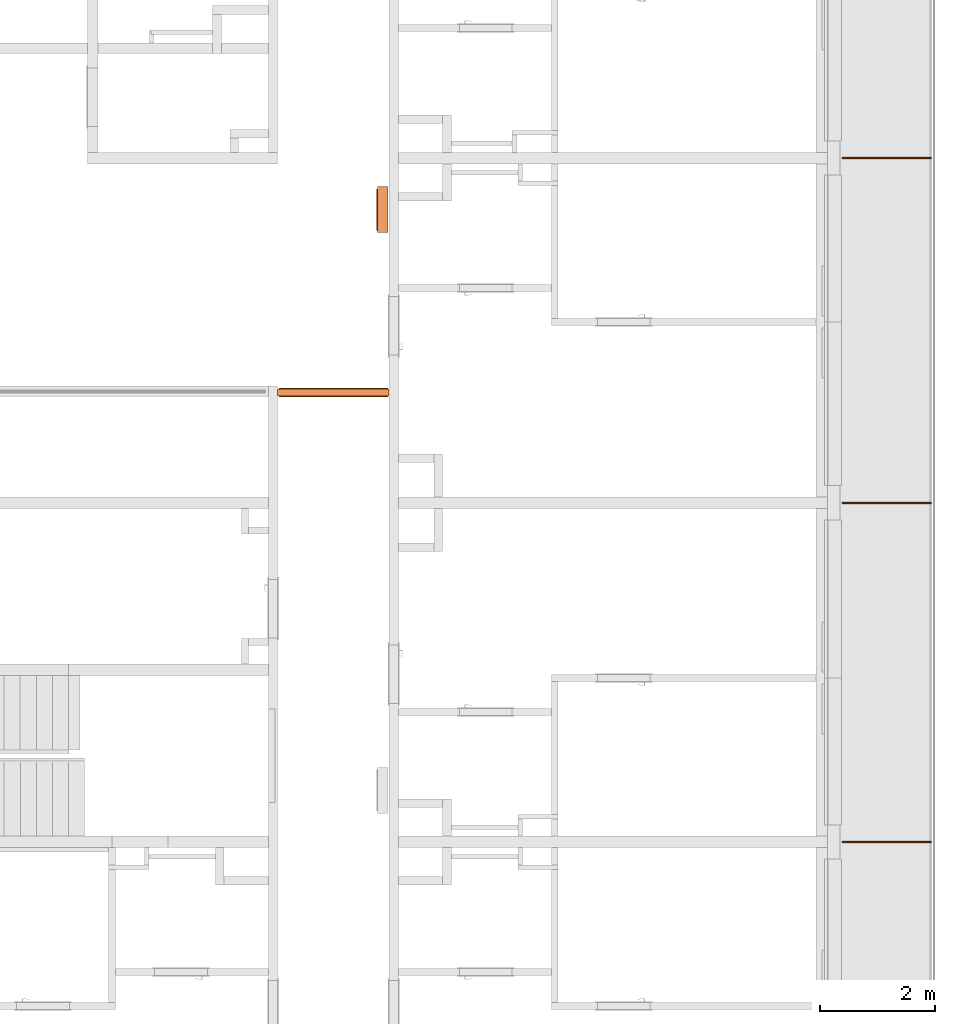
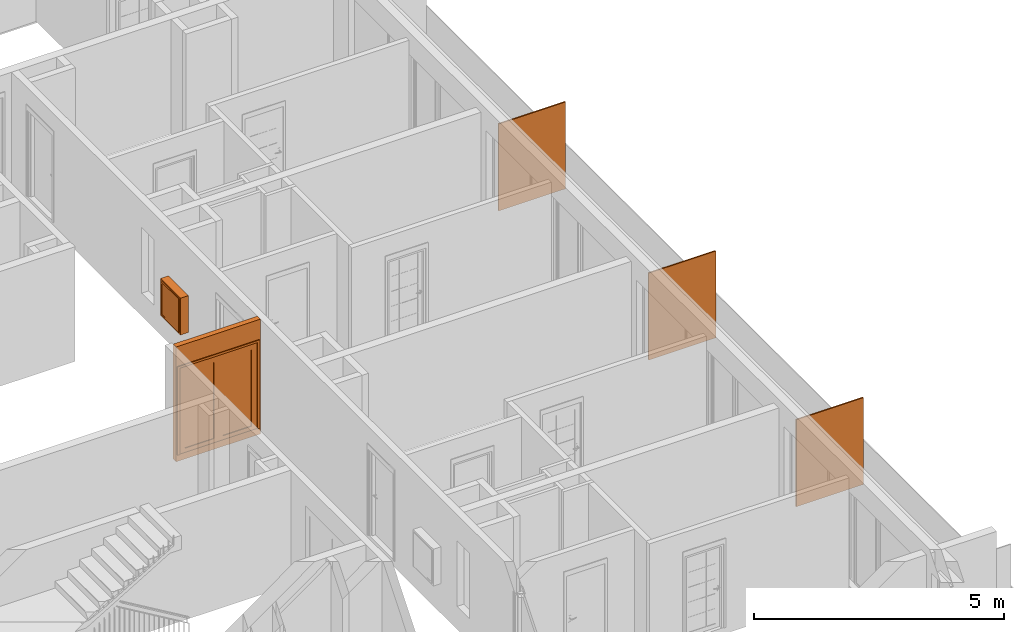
# One storey, part 32 of 66: 6 proxies, 1 opening.
"""IFC2X3 building model written with IfcOpenShell, lengths in millimetres."""

import ifcopenshell
import ifcopenshell.guid

model = None  # the IFC model being written
_history = None  # IfcOwnerHistory: only IFC2X3 demands one
_inside = {}  # id of a spatial element -> (the spatial element, [elements in it])
_under = {}  # id of a project, library or spatial element -> (it, [spatial elements below it])
_declared = {}  # id of a project -> (the project, [libraries it declares])
_typed = {}  # id of a type object -> (the type object, [elements of that type])
_made_of = {}  # id of a material, layer set ... -> (it, [elements and type objects made of it])


def new_model(schema):
    """Start an empty IFC model of exactly this schema.

    Asked for "IFC4X3", IfcOpenShell would pick the latest addendum, in which some entities
    have other attributes; the version numbers below select the first issue.
    IFC2X3 requires an IfcOwnerHistory on every rooted entity: one is made here for all.
    """
    global model, _history
    if schema == "IFC4X3":
        model = ifcopenshell.file(schema_version=(4, 3, 0, 0))
    else:
        model = ifcopenshell.file(schema=schema)
    _inside.clear()
    _under.clear()
    _declared.clear()
    _typed.clear()
    _made_of.clear()
    _history = None
    if model.schema == "IFC2X3":
        org = make("IfcOrganization", Name="unknown")
        user = make(
            "IfcPersonAndOrganization",
            ThePerson=make("IfcPerson", FamilyName="unknown"),
            TheOrganization=org,
        )
        app = make(
            "IfcApplication",
            ApplicationDeveloper=org,
            Version="unknown",
            ApplicationFullName="unknown",
            ApplicationIdentifier="unknown",
        )
        _history = make(
            "IfcOwnerHistory",
            OwningUser=user,
            OwningApplication=app,
            ChangeAction="ADDED",
            CreationDate=0,
        )
    return model


def make(cls, **values):
    """One entity of the class cls with the attributes given. An attribute that is None is left unset."""
    return model.create_entity(
        cls, **{name: value for name, value in values.items() if value is not None}
    )


def entity(cls, *values):
    """Any entity or typed value of the class cls, its attributes in the order of the schema. None: left unset."""
    e = model.create_entity(cls)
    for i, value in enumerate(values):
        if value is not None:
            e[i] = value
    return e


def rooted(cls, **values):
    """An entity with a GlobalId (a new one), such as an element, a storey or a relation."""
    return make(cls, GlobalId=ifcopenshell.guid.new(), OwnerHistory=_history, **values)


def si_unit(unit_type, name, prefix=None):
    """IfcSIUnit, for example si_unit("LENGTHUNIT", "METRE", prefix="MILLI")."""
    return make("IfcSIUnit", UnitType=unit_type, Prefix=prefix, Name=name)


def converted_unit(unit_type, name, factor, base, dimensions=None, offset=None):
    """IfcConversionBasedUnit, such as the inch: factor (a typed value) times the base unit."""
    return make(
        "IfcConversionBasedUnit"
        if offset is None
        else "IfcConversionBasedUnitWithOffset",
        ConversionOffset=offset,
        Dimensions=None
        if dimensions is None
        else entity("IfcDimensionalExponents", *dimensions),
        UnitType=unit_type,
        Name=name,
        ConversionFactor=make(
            "IfcMeasureWithUnit", ValueComponent=factor, UnitComponent=base
        ),
    )


def derived_unit(unit_type, elements):
    """IfcDerivedUnit: a product of units, each with its exponent."""
    return make(
        "IfcDerivedUnit",
        Elements=[
            make("IfcDerivedUnitElement", Unit=unit, Exponent=power)
            for unit, power in elements
        ],
        UnitType=unit_type,
    )


def money_unit(currency):
    """IfcMonetaryUnit."""
    return make("IfcMonetaryUnit", Currency=currency)


def assignment(units):
    """IfcUnitAssignment: the units of a project."""
    return None if units is None else make("IfcUnitAssignment", Units=units)


def point(xyz):
    """IfcCartesianPoint."""
    return None if xyz is None else make("IfcCartesianPoint", Coordinates=xyz)


def direction(xyz):
    """IfcDirection."""
    return None if xyz is None else make("IfcDirection", DirectionRatios=xyz)


def frame(location, z_axis=None, x_axis=None):
    """IfcAxis2Placement3D, a coordinate frame: its origin and axes. An axis left out is left unset."""
    return make(
        "IfcAxis2Placement3D",
        Location=point(location),
        Axis=direction(z_axis),
        RefDirection=direction(x_axis),
    )


def frame_2d(location, x_axis=None):
    """IfcAxis2Placement2D, a coordinate frame in the plane: its origin and x axis."""
    return make(
        "IfcAxis2Placement2D", Location=point(location), RefDirection=direction(x_axis)
    )


def origin_with_axes():
    """The frame at (0, 0, 0) with the z axis (0, 0, 1) and the x axis (1, 0, 0) written out."""
    return frame((0.0, 0.0, 0.0), z_axis=(0.0, 0.0, 1.0), x_axis=(1.0, 0.0, 0.0))


def origin_2d_with_axis():
    """The frame at (0, 0) in the plane with the x axis (1, 0) written out."""
    return frame_2d((0.0, 0.0), x_axis=(1.0, 0.0))


def place(relative_to, where):
    """IfcLocalPlacement: puts the frame where relative to a parent placement (None: the world)."""
    return make(
        "IfcLocalPlacement", PlacementRelTo=relative_to, RelativePlacement=where
    )


def context(
    kind, dimensions, precision=None, world=None, true_north=None, identifier=None
):
    """IfcGeometricRepresentationContext, for example the 3D "Model" context."""
    return make(
        "IfcGeometricRepresentationContext",
        ContextIdentifier=identifier,
        ContextType=kind,
        CoordinateSpaceDimension=dimensions,
        Precision=precision,
        WorldCoordinateSystem=world,
        TrueNorth=true_north,
    )


def subcontext(parent, identifier, kind, view, scale=None):
    """IfcGeometricRepresentationSubContext, for example "Body" below "Model"."""
    return make(
        "IfcGeometricRepresentationSubContext",
        ContextIdentifier=identifier,
        ContextType=kind,
        ParentContext=parent,
        TargetScale=scale,
        TargetView=view,
    )


def project(units=None, contexts=None):
    """IfcProject with its units and contexts."""
    return rooted(
        "IfcProject",
        Name="project",
        RepresentationContexts=contexts,
        UnitsInContext=assignment(units),
    )


def spatial(cls, under=None, at=None, **own):
    """A site, building, storey or space (cls), placed at a placement, below another one or the project."""
    s = rooted(cls, ObjectPlacement=at, **own)
    if under is not None:
        _under.setdefault(under.id(), (under, []))[1].append(s)
    return s


def polyline(points):
    """IfcPolyline through the points."""
    return make("IfcPolyline", Points=[point(p) for p in points])


def profile(cls, at=None, kind="AREA", **sizes):
    """A parametric profile (cls). Its sizes go by their IFC names, for example OverallWidth=200.0."""
    return make(cls, ProfileType=kind, Position=at, **sizes)


def rectangle(**sizes):
    """IfcRectangleProfileDef."""
    return profile("IfcRectangleProfileDef", **sizes)


def outline(outer, holes=None, kind="AREA"):
    """IfcArbitraryClosedProfileDef: a profile drawn as a closed curve; with holes, ...WithVoids."""
    if holes is None:
        return make("IfcArbitraryClosedProfileDef", ProfileType=kind, OuterCurve=outer)
    return make(
        "IfcArbitraryProfileDefWithVoids",
        ProfileType=kind,
        OuterCurve=outer,
        InnerCurves=holes,
    )


def extrude(swept, where, along, depth):
    """IfcExtrudedAreaSolid: the profile swept, set in the frame where, extruded along a direction by depth."""
    return make(
        "IfcExtrudedAreaSolid",
        SweptArea=swept,
        Position=where,
        ExtrudedDirection=direction(along),
        Depth=depth,
    )


def faces_of(points, faces, orient=None, outer=None):
    """IfcFace entities. A face is a list of loops; a loop is a list of indices into points, from 0.

    orient and outer hold one flag for each loop. By default every Orientation is true, the
    first loop of a face is its IfcFaceOuterBound and the others are IfcFaceBound.
    """
    made = []
    for i, loops in enumerate(faces):
        bounds = []
        for j, loop in enumerate(loops):
            is_outer = j == 0 if outer is None else outer[i][j]
            bounds.append(
                make(
                    "IfcFaceOuterBound" if is_outer else "IfcFaceBound",
                    Bound=make("IfcPolyLoop", Polygon=[points[k] for k in loop]),
                    Orientation=True if orient is None else orient[i][j],
                )
            )
        made.append(make("IfcFace", Bounds=bounds))
    return made


def open_shell(faces, orient=None, outer=None):
    """The faces of one IfcOpenShell. surface_model builds it on its shared points."""
    return ("IfcOpenShell", faces, orient, outer)


def faceted_brep(points, faces, orient=None, outer=None, voids=None):
    """IfcFacetedBrep: a solid bounded by flat faces; with voids (closed shells), ...WithVoids."""
    shared = [point(p) for p in points]
    hull = make("IfcClosedShell", CfsFaces=faces_of(shared, faces, orient, outer))
    if voids is None:
        return make("IfcFacetedBrep", Outer=hull)
    return make(
        "IfcFacetedBrepWithVoids",
        Outer=hull,
        Voids=[
            make(cls, CfsFaces=faces_of(shared, fs, o, b)) for cls, fs, o, b in voids
        ],
    )


def surface_model(cls, points, shells):
    """IfcFaceBasedSurfaceModel or IfcShellBasedSurfaceModel (cls): surfaces that need not close."""
    shared = [point(p) for p in points]
    made = [make(c, CfsFaces=faces_of(shared, fs, o, b)) for c, fs, o, b in shells]
    if cls == "IfcFaceBasedSurfaceModel":
        return make(cls, FbsmFaces=made)
    return make(cls, SbsmBoundary=made)


def shape(context_of_items, identifier, shape_type, items):
    """IfcShapeRepresentation: the items that make up one representation, for example the "Body"."""
    return make(
        "IfcShapeRepresentation",
        ContextOfItems=context_of_items,
        RepresentationIdentifier=identifier,
        RepresentationType=shape_type,
        Items=items,
    )


def source(mapping_origin, context_of_items, identifier, shape_type, items):
    """IfcRepresentationMap: a shape defined once, which mapped items show again and again."""
    return make(
        "IfcRepresentationMap",
        MappingOrigin=mapping_origin,
        MappedRepresentation=shape(context_of_items, identifier, shape_type, items),
    )


def transform(
    local_origin,
    x_axis=None,
    y_axis=None,
    z_axis=None,
    scale=None,
    scale2=None,
    scale3=None,
    uniform=True,
):
    """IfcCartesianTransformationOperator3D, or its non-uniform kind. x_axis, y_axis, z_axis: its Axis1, 2, 3."""
    if uniform:
        return make(
            "IfcCartesianTransformationOperator3D",
            Axis1=direction(x_axis),
            Axis2=direction(y_axis),
            LocalOrigin=point(local_origin),
            Scale=scale,
            Axis3=direction(z_axis),
        )
    return make(
        "IfcCartesianTransformationOperator3DnonUniform",
        Axis1=direction(x_axis),
        Axis2=direction(y_axis),
        LocalOrigin=point(local_origin),
        Scale=scale,
        Axis3=direction(z_axis),
        Scale2=scale2,
        Scale3=scale3,
    )


def mapped(mapping_source, mapping_target):
    """IfcMappedItem: shows the shape of a source again, moved by a transform."""
    return make(
        "IfcMappedItem", MappingSource=mapping_source, MappingTarget=mapping_target
    )


def material(Name=None, Category=None):
    """IfcMaterial."""
    return make("IfcMaterial", Name=Name, Category=Category)


def made_of(thing, what):
    """Note that an element or type object is made of a material, layer set ...; save() writes the relation."""
    if what is not None:
        _made_of.setdefault(what.id(), (what, []))[1].append(thing)
    return thing


def type_object(cls, material=None, **own):
    """A type object (cls), such as IfcWallType, which elements share."""
    return made_of(rooted(cls, **own), material)


def element(
    cls,
    number,
    at=None,
    inside=None,
    cuts=None,
    type_object=None,
    material=None,
    context=None,
    identifier="Body",
    shape_type=None,
    held_by="IfcProductDefinitionShape",
    body=None,
    shapes=None,
    **own,
):
    """One element of the class cls, such as IfcWall. Its Tag is "e" and its number.

    at: its placement. inside: the storey or other place that contains it. cuts: it is an
    opening in that element (IfcRelVoidsElement). A single representation is given by context,
    identifier, shape_type and body (its items); several are given by shapes. held_by: the class
    of the entity that holds the representations. save() writes the other relations.
    """
    e = rooted(cls, Tag="e%d" % number, ObjectPlacement=at, **own)
    if body is not None:
        shapes = [shape(context, identifier, shape_type, body)]
    if shapes is not None:
        e.Representation = make(held_by, Representations=shapes)
    if inside is not None:
        _inside.setdefault(inside.id(), (inside, []))[1].append(e)
    if cuts is not None:
        rooted(
            "IfcRelVoidsElement", RelatingBuildingElement=cuts, RelatedOpeningElement=e
        )
    if type_object is not None:
        _typed.setdefault(type_object.id(), (type_object, []))[1].append(e)
    return made_of(e, material)


def fill(opening, filler):
    """IfcRelFillsElement: the door or window that sits in an opening."""
    return rooted(
        "IfcRelFillsElement",
        RelatingOpeningElement=opening,
        RelatedBuildingElement=filler,
    )


def aggregate(whole, parts):
    """IfcRelAggregates: a whole, such as a stair, and the parts it consists of."""
    return rooted("IfcRelAggregates", RelatingObject=whole, RelatedObjects=parts)


def save(model, path):
    """Write the relations noted so far, then the file.

    IfcRelAggregates (storeys below a building ...), IfcRelContainedInSpatialStructure (elements
    in a storey), IfcRelDefinesByType, IfcRelAssociatesMaterial and IfcRelDeclares: one each for
    every whole, place, type object, material and project.
    """
    for whole, parts in _under.values():
        aggregate(whole, parts)
    for where, things in _inside.values():
        rooted(
            "IfcRelContainedInSpatialStructure",
            RelatedElements=things,
            RelatingStructure=where,
        )
    for kind, things in _typed.values():
        rooted("IfcRelDefinesByType", RelatedObjects=things, RelatingType=kind)
    for what, things in _made_of.values():
        rooted("IfcRelAssociatesMaterial", RelatedObjects=things, RelatingMaterial=what)
    for by, libraries in _declared.values():
        rooted("IfcRelDeclares", RelatingContext=by, RelatedDefinitions=libraries)
    model.write(path)


model = new_model("IFC2X3")

# Units and contexts
model_context = context("Model", 3, precision=0.01, world=origin_with_axes(), true_north=direction((0.34421633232, 0.938890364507)))
body_context = subcontext(model_context, "Body", "Model", "MODEL_VIEW")
ifc_project = project(units=[si_unit("LENGTHUNIT", "METRE", prefix="MILLI"), si_unit("AREAUNIT", "SQUARE_METRE"), si_unit("VOLUMEUNIT", "CUBIC_METRE"), converted_unit("PLANEANGLEUNIT", "DEGREE", entity("IfcPlaneAngleMeasure", 0.0174532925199), si_unit("PLANEANGLEUNIT", "RADIAN"), dimensions=[0, 0, 0, 0, 0, 0, 0]), si_unit("SOLIDANGLEUNIT", "STERADIAN"), money_unit("USD"), converted_unit("TIMEUNIT", "Year", entity("IfcTimeMeasure", 31556926.0), si_unit("TIMEUNIT", "SECOND"), dimensions=[0, 0, 1, 0, 0, 0, 0]), si_unit("MASSUNIT", "GRAM", prefix="KILO"), si_unit("THERMODYNAMICTEMPERATUREUNIT", "DEGREE_CELSIUS"), si_unit("LUMINOUSINTENSITYUNIT", "LUMEN"), si_unit("ENERGYUNIT", "JOULE", prefix="MEGA"), derived_unit("THERMALCONDUCTANCEUNIT", [(si_unit("POWERUNIT", "WATT"), 1), (si_unit("LENGTHUNIT", "METRE"), -1), (si_unit("THERMODYNAMICTEMPERATUREUNIT", "KELVIN"), -1)]), derived_unit("SPECIFICHEATCAPACITYUNIT", [(si_unit("ENERGYUNIT", "JOULE"), 1), (si_unit("MASSUNIT", "GRAM", prefix="KILO"), -1), (si_unit("THERMODYNAMICTEMPERATUREUNIT", "KELVIN"), -1)]), derived_unit("MASSDENSITYUNIT", [(si_unit("MASSUNIT", "GRAM", prefix="KILO"), 1), (si_unit("VOLUMEUNIT", "CUBIC_METRE"), -1)])], contexts=[model_context])

# Site, building, storey
site_placement = place(None, origin_with_axes())
site = spatial("IfcSite", under=ifc_project, at=site_placement, Name="USTRONIE MORSKIE", CompositionType="ELEMENT")
building_placement = place(site_placement, origin_with_axes())
building = spatial("IfcBuilding", under=site, at=building_placement, Name="Budynek", CompositionType="ELEMENT")
storey_placement = place(building_placement, frame((0.0, 0.0, 10000.0), z_axis=(0.0, 0.0, 1.0), x_axis=(1.0, 0.0, 0.0)))
storey = spatial("IfcBuildingStorey", under=building, at=storey_placement, Name="PIĘTRO 3", CompositionType="ELEMENT", Elevation=10000.0)

# Proxies, opening
ifc_material_1 = material(Name="Bloczki silikatowe")
building_element_proxy_type_1 = type_object("IfcBuildingElementProxyType", Name="Bloczki silikatowe 120", PredefinedType="NOTDEFINED")
proxy_1_placement = place(storey_placement, frame((418117.920919, 734721.515629, -160.0), z_axis=(0.0, 0.0, 1.0), x_axis=(-0.999999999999, -1.3878320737e-06, 0.0)))
proxy_1 = element("IfcBuildingElementProxy", 1, at=proxy_1_placement, inside=storey, type_object=building_element_proxy_type_1, material=ifc_material_1, Name="SW-04", context=body_context, shape_type="Brep", body=[
    faceted_brep([(2019.99991673, -60.0000000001, 2800.0), (2020.00008327, 59.9999999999, 2800.0), (80.00008327, 59.9999999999, 2800.0), (79.9999167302, -60.0000000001, 2800.0), (2019.99991673, -60.0000000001, 0.0), (2020.00008327, 59.9999999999, 0.0), (80.00008327, 59.9999999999, 0.0), (79.9999167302, -60.0000000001, 0.0)], [[[0, 1, 2, 3]], [[1, 0, 4, 5]], [[1, 5, 6, 2]], [[7, 3, 2, 6]], [[4, 0, 3, 7]], [[5, 4, 7, 6]]]),
])
opening_placement = place(proxy_1_placement, frame((1050.00012795, 0.0, 160.0), z_axis=(0.0, 0.0, 1.0), x_axis=(1.0, 0.0, 0.0)))
opening = element("IfcOpeningElement", 2, at=opening_placement, cuts=proxy_1, Name="Dw.5", context=body_context, shape_type="SweptSolid", body=[
    extrude(rectangle(XDim=1820.0, YDim=2120.0, at=origin_2d_with_axis()), frame((0.0, -120.0, 1060.0), z_axis=(0.0, 1.0, 0.0), x_axis=(1.0, 0.0, 0.0)), (0.0, 0.0, 1.0), 360.0),
    extrude(rectangle(XDim=1894.0, YDim=2157.0, at=origin_2d_with_axis()), frame((0.0, -60.0000000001, 1078.5), z_axis=(0.0, 1.0, 0.0), x_axis=(1.0, 0.0, 0.0)), (0.0, 0.0, -1.0), 120.0),
    extrude(rectangle(XDim=1894.0, YDim=2157.0, at=origin_2d_with_axis()), frame((0.0, 59.9999999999, 1078.5), z_axis=(0.0, -1.0, 0.0), x_axis=(1.0, 0.0, 0.0)), (0.0, 0.0, -1.0), 120.0),
])
building_element_proxy_type_2 = type_object("IfcBuildingElementProxyType", Name="Drzwi podwójne 23", PredefinedType="NOTDEFINED")
shared_shape_1 = source(origin_with_axes(), body_context, "Body", "SurfaceModel", [
    faceted_brep([(-910.0, -115.0, 0.0), (-885.0, -115.0, 0.0), (-885.0, -120.0, 0.0), (-910.0, -120.0, 0.0), (-910.0, -115.0, 2120.0), (-885.0, -115.0, 2095.0), (-885.0, -120.0, 2095.0), (-910.0, -120.0, 2120.0)], [[[0, 1, 2, 3]], [[0, 4, 5, 1]], [[1, 5, 6, 2]], [[3, 2, 6, 7]], [[4, 0, 3, 7]], [[5, 4, 7, 6]]]),
    faceted_brep([(910.0, -115.0, 2120.0), (885.0, -115.0, 2095.0), (885.0, -120.0, 2095.0), (910.0, -120.0, 2120.0), (910.0, -115.0, 0.0), (885.0, -115.0, 0.0), (885.0, -120.0, 0.0), (910.0, -120.0, 0.0)], [[[0, 1, 2, 3]], [[0, 4, 5, 1]], [[1, 5, 6, 2]], [[3, 2, 6, 7]], [[4, 0, 3, 7]], [[5, 4, 7, 6]]]),
    faceted_brep([(-885.0, -115.0, 2095.0), (885.0, -115.0, 2095.0), (885.0, -120.0, 2095.0), (-885.0, -120.0, 2095.0), (-910.0, -115.0, 2120.0), (910.0, -115.0, 2120.0), (910.0, -120.0, 2120.0), (-910.0, -120.0, 2120.0)], [[[0, 1, 2, 3]], [[0, 4, 5, 1]], [[1, 5, 6, 2]], [[3, 2, 6, 7]], [[4, 0, 3, 7]], [[5, 4, 7, 6]]]),
    faceted_brep([(-947.0, -139.0, 0.0), (-947.0, -120.0, 0.0), (-897.0, -120.0, 0.0), (-897.0, -139.0, 0.0), (-947.0, -139.0, 2157.0), (-947.0, -120.0, 2157.0), (-897.0, -120.0, 2107.0), (-897.0, -139.0, 2107.0)], [[[0, 1, 2, 3]], [[4, 5, 1, 0]], [[1, 5, 6, 2]], [[3, 2, 6, 7]], [[0, 3, 7, 4]], [[7, 6, 5, 4]]]),
    faceted_brep([(947.0, -139.0, 2157.0), (947.0, -120.0, 2157.0), (897.0, -120.0, 2107.0), (897.0, -139.0, 2107.0), (947.0, -139.0, 0.0), (947.0, -120.0, 0.0), (897.0, -120.0, 0.0), (897.0, -139.0, 0.0)], [[[0, 1, 2, 3]], [[4, 5, 1, 0]], [[1, 5, 6, 2]], [[3, 2, 6, 7]], [[0, 3, 7, 4]], [[7, 6, 5, 4]]]),
    faceted_brep([(-947.0, -139.0, 2157.0), (-947.0, -120.0, 2157.0), (-897.0, -120.0, 2107.0), (-897.0, -139.0, 2107.0), (947.0, -139.0, 2157.0), (947.0, -120.0, 2157.0), (897.0, -120.0, 2107.0), (897.0, -139.0, 2107.0)], [[[0, 1, 2, 3]], [[4, 5, 1, 0]], [[1, 5, 6, 2]], [[3, 2, 6, 7]], [[0, 3, 7, 4]], [[7, 6, 5, 4]]]),
    faceted_brep([(-947.0, 19.0, 0.0), (-897.0, 19.0, 0.0), (-897.0, 0.0, 0.0), (-947.0, 0.0, 0.0), (-947.0, 19.0, 2157.0), (-897.0, 19.0, 2107.0), (-897.0, 0.0, 2107.0), (-947.0, 0.0, 2157.0)], [[[0, 1, 2, 3]], [[0, 4, 5, 1]], [[1, 5, 6, 2]], [[3, 2, 6, 7]], [[4, 0, 3, 7]], [[5, 4, 7, 6]]]),
    faceted_brep([(947.0, 19.0, 2157.0), (897.0, 19.0, 2107.0), (897.0, 0.0, 2107.0), (947.0, 0.0, 2157.0), (947.0, 19.0, 0.0), (897.0, 19.0, 0.0), (897.0, 0.0, 0.0), (947.0, 0.0, 0.0)], [[[0, 1, 2, 3]], [[0, 4, 5, 1]], [[1, 5, 6, 2]], [[3, 2, 6, 7]], [[4, 0, 3, 7]], [[5, 4, 7, 6]]]),
    faceted_brep([(-947.0, 19.0, 2157.0), (-897.0, 19.0, 2107.0), (-897.0, 0.0, 2107.0), (-947.0, 0.0, 2157.0), (947.0, 19.0, 2157.0), (897.0, 19.0, 2107.0), (897.0, 0.0, 2107.0), (947.0, 0.0, 2157.0)], [[[0, 1, 2, 3]], [[0, 4, 5, 1]], [[1, 5, 6, 2]], [[3, 2, 6, 7]], [[4, 0, 3, 7]], [[5, 4, 7, 6]]]),
    faceted_brep([(-850.0, -40.0, 0.0), (-850.0, -40.0, 2050.0), (-850.0, -115.0, 2050.0), (-850.0, -115.0, 0.0), (-862.0, -40.0, 2050.0), (-862.0, -40.0, 0.0), (-862.0, 0.0, 2050.0), (-910.0, 0.0, 2050.0), (-910.0, -115.0, 2050.0), (-910.0, -115.0, 0.0), (-910.0, 0.0, 0.0), (-862.0, 0.0, 0.0)], [[[0, 1, 2, 3]], [[4, 1, 0, 5]], [[4, 6, 7, 8, 2, 1]], [[3, 2, 8, 9]], [[5, 0, 3, 9, 10, 11]], [[6, 4, 5, 11]], [[6, 11, 10, 7]], [[10, 9, 8, 7]]]),
    faceted_brep([(862.0, -40.0, 2050.0), (850.0, -40.0, 2050.0), (850.0, -115.0, 2050.0), (910.0, -115.0, 2050.0), (910.0, 0.0, 2050.0), (862.0, 0.0, 2050.0), (862.0, -40.0, 0.0), (850.0, -40.0, 0.0), (850.0, -115.0, 0.0), (910.0, -115.0, 0.0), (910.0, 0.0, 0.0), (862.0, 0.0, 0.0)], [[[0, 1, 2, 3, 4, 5]], [[1, 0, 6, 7]], [[1, 7, 8, 2]], [[3, 2, 8, 9]], [[4, 3, 9, 10]], [[11, 5, 4, 10]], [[0, 5, 11, 6]], [[6, 11, 10, 9, 8, 7]]]),
    faceted_brep([(-862.0, 0.0, 2062.0), (-862.0, 0.0, 2050.0), (-910.0, 0.0, 2050.0), (-910.0, 0.0, 2120.0), (910.0, 0.0, 2120.0), (910.0, 0.0, 2050.0), (862.0, 0.0, 2050.0), (862.0, 0.0, 2062.0), (-862.0, -40.0, 2062.0), (-862.0, -40.0, 2050.0), (-850.0, -40.0, 2050.0), (-850.0, -115.0, 2050.0), (-910.0, -115.0, 2050.0), (-910.0, -115.0, 2120.0), (910.0, -115.0, 2120.0), (910.0, -115.0, 2050.0), (862.0, -40.0, 2050.0), (850.0, -115.0, 2050.0), (850.0, -40.0, 2050.0), (862.0, -40.0, 2062.0)], [[[0, 1, 2, 3, 4, 5, 6, 7]], [[1, 0, 8, 9]], [[9, 10, 11, 12, 2, 1]], [[2, 12, 13, 3]], [[3, 13, 14, 4]], [[4, 14, 15, 5]], [[16, 6, 5, 15, 17, 18]], [[7, 6, 16, 19]], [[0, 7, 19, 8]], [[16, 18, 10, 9, 8, 19]], [[10, 18, 17, 11]], [[17, 15, 14, 13, 12, 11]]]),
    faceted_brep([(862.0, 0.0, 100.0), (862.0, -40.0, 100.0), (762.0, -40.0, 100.0), (762.0, 0.0, 100.0), (862.0, 0.0, 1962.0), (862.0, -40.0, 1962.0), (762.0, -40.0, 1962.0), (762.0, 0.0, 1962.0)], [[[0, 1, 2, 3]], [[4, 5, 1, 0]], [[1, 5, 6, 2]], [[3, 2, 6, 7]], [[0, 3, 7, 4]], [[7, 6, 5, 4]]]),
    faceted_brep([(0.0, 0.0, 100.0), (0.0, -40.0, 100.0), (0.0, -40.0, 1962.0), (0.0, 0.0, 1962.0), (100.0, 0.0, 100.0), (100.0, -40.0, 100.0), (100.0, -40.0, 1962.0), (100.0, 0.0, 1962.0)], [[[0, 1, 2, 3]], [[4, 5, 1, 0]], [[1, 5, 6, 2]], [[3, 2, 6, 7]], [[0, 3, 7, 4]], [[7, 6, 5, 4]]]),
    faceted_brep([(862.0, 0.0, 0.0), (862.0, -40.0, 0.0), (0.0, -40.0, 0.0), (0.0, 0.0, 0.0), (862.0, 0.0, 100.0), (862.0, -40.0, 100.0), (762.0, -40.0, 100.0), (100.0, -40.0, 100.0), (0.0, -40.0, 100.0), (0.0, 0.0, 100.0), (100.0, 0.0, 100.0), (762.0, 0.0, 100.0)], [[[0, 1, 2, 3]], [[4, 5, 1, 0]], [[1, 5, 6, 7, 8, 2]], [[3, 2, 8, 9]], [[0, 3, 9, 10, 11, 4]], [[11, 6, 5, 4]], [[10, 7, 6, 11]], [[9, 8, 7, 10]]]),
    faceted_brep([(862.0, 0.0, 2062.0), (862.0, -40.0, 2062.0), (862.0, -40.0, 1962.0), (862.0, 0.0, 1962.0), (0.0, 0.0, 2062.0), (0.0, -40.0, 2062.0), (0.0, -40.0, 1962.0), (100.0, -40.0, 1962.0), (762.0, -40.0, 1962.0), (762.0, 0.0, 1962.0), (100.0, 0.0, 1962.0), (0.0, 0.0, 1962.0)], [[[0, 1, 2, 3]], [[4, 5, 1, 0]], [[1, 5, 6, 7, 8, 2]], [[3, 2, 8, 9]], [[0, 3, 9, 10, 11, 4]], [[11, 6, 5, 4]], [[10, 7, 6, 11]], [[9, 8, 7, 10]]]),
    surface_model("IfcShellBasedSurfaceModel", [(762.0, -14.0, 100.0), (100.0, -14.0, 100.0), (100.0, -14.0, 1962.0), (762.0, -14.0, 1962.0)], [open_shell([[[0, 1, 2, 3]]])]),
    surface_model("IfcShellBasedSurfaceModel", [(762.0, -26.0, 100.0), (762.0, -26.0, 1962.0), (100.0, -26.0, 1962.0), (100.0, -26.0, 100.0)], [open_shell([[[0, 1, 2, 3]]])]),
    faceted_brep([(-862.0, 0.0, 100.0), (-762.0, 0.0, 100.0), (-762.0, -40.0, 100.0), (-862.0, -40.0, 100.0), (-862.0, 0.0, 1962.0), (-762.0, 0.0, 1962.0), (-762.0, -40.0, 1962.0), (-862.0, -40.0, 1962.0)], [[[0, 1, 2, 3]], [[0, 4, 5, 1]], [[1, 5, 6, 2]], [[3, 2, 6, 7]], [[4, 0, 3, 7]], [[5, 4, 7, 6]]]),
    faceted_brep([(0.0, 0.0, 100.0), (0.0, 0.0, 1962.0), (0.0, -40.0, 1962.0), (0.0, -40.0, 100.0), (-100.0, 0.0, 100.0), (-100.0, 0.0, 1962.0), (-100.0, -40.0, 1962.0), (-100.0, -40.0, 100.0)], [[[0, 1, 2, 3]], [[0, 4, 5, 1]], [[1, 5, 6, 2]], [[3, 2, 6, 7]], [[4, 0, 3, 7]], [[5, 4, 7, 6]]]),
    faceted_brep([(-862.0, 0.0, 0.0), (0.0, 0.0, 0.0), (0.0, -40.0, 0.0), (-862.0, -40.0, 0.0), (-862.0, 0.0, 100.0), (-762.0, 0.0, 100.0), (-100.0, 0.0, 100.0), (0.0, 0.0, 100.0), (0.0, -40.0, 100.0), (-100.0, -40.0, 100.0), (-762.0, -40.0, 100.0), (-862.0, -40.0, 100.0)], [[[0, 1, 2, 3]], [[0, 4, 5, 6, 7, 1]], [[1, 7, 8, 2]], [[3, 2, 8, 9, 10, 11]], [[4, 0, 3, 11]], [[5, 4, 11, 10]], [[6, 5, 10, 9]], [[7, 6, 9, 8]]]),
    faceted_brep([(-862.0, 0.0, 2062.0), (-862.0, 0.0, 1962.0), (-862.0, -40.0, 1962.0), (-862.0, -40.0, 2062.0), (0.0, 0.0, 2062.0), (0.0, 0.0, 1962.0), (-100.0, 0.0, 1962.0), (-762.0, 0.0, 1962.0), (-762.0, -40.0, 1962.0), (-100.0, -40.0, 1962.0), (0.0, -40.0, 1962.0), (0.0, -40.0, 2062.0)], [[[0, 1, 2, 3]], [[0, 4, 5, 6, 7, 1]], [[1, 7, 8, 2]], [[3, 2, 8, 9, 10, 11]], [[4, 0, 3, 11]], [[5, 4, 11, 10]], [[6, 5, 10, 9]], [[7, 6, 9, 8]]]),
    surface_model("IfcShellBasedSurfaceModel", [(-762.0, -14.0, 100.0), (-762.0, -14.0, 1962.0), (-100.0, -14.0, 1962.0), (-100.0, -14.0, 100.0)], [open_shell([[[0, 1, 2, 3]]])]),
    surface_model("IfcShellBasedSurfaceModel", [(-762.0, -26.0, 100.0), (-100.0, -26.0, 100.0), (-100.0, -26.0, 1962.0), (-762.0, -26.0, 1962.0)], [open_shell([[[0, 1, 2, 3]]])]),
])
proxy_2_placement = place(opening_placement, frame((-850.0, 0.0, 0.0), z_axis=(0.0, 0.0, 1.0), x_axis=(1.0, 0.0, 0.0)))
proxy_2 = element("IfcBuildingElementProxy", 3, at=proxy_2_placement, inside=storey, type_object=building_element_proxy_type_2, Name="Dw.5", context=body_context, shape_type="MappedRepresentation", body=[
    mapped(shared_shape_1, transform((850.0, 59.9999999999, 0.0))),
])
fill(opening, proxy_2)

# Proxies
ifc_material_2 = material(Name="Woda")
building_element_proxy_type_3 = type_object("IfcBuildingElementProxyType", Name="Woda 30", PredefinedType="NOTDEFINED")
proxy_3_placement = place(storey_placement, frame((425917.920919, 732801.199036, 20.0), z_axis=(0.0, 0.0, 1.0), x_axis=(0.999999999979, -6.40856598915e-06, 0.0)))
element("IfcBuildingElementProxy", 4, at=proxy_3_placement, inside=storey, type_object=building_element_proxy_type_3, material=ifc_material_2, Name="Œciana-007", context=body_context, shape_type="SweptSolid", body=[
    extrude(outline(polyline([(0.0, -14.9999999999), (1550.00000003, -14.9999999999), (1550.00000003, 15.0000000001), (0.0, 15.0000000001), (0.0, -14.9999999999)])), origin_with_axes(), (0.0, 0.0, 1.0), 2120.0),
])
proxy_4_placement = place(storey_placement, frame((425917.920919, 726901.199036, 20.0), z_axis=(0.0, 0.0, 1.0), x_axis=(0.999999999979, -6.40856598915e-06, 0.0)))
element("IfcBuildingElementProxy", 5, at=proxy_4_placement, inside=storey, type_object=building_element_proxy_type_3, material=ifc_material_2, Name="Œciana-007", context=body_context, shape_type="SweptSolid", body=[
    extrude(outline(polyline([(0.0, -14.9999999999), (1550.00000003, -14.9999999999), (1550.00000003, 15.0), (0.0, 15.0), (0.0, -14.9999999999)])), origin_with_axes(), (0.0, 0.0, 1.0), 2120.0),
])
proxy_5_placement = place(storey_placement, frame((425917.920919, 738801.199036, 20.0), z_axis=(0.0, 0.0, 1.0), x_axis=(0.999999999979, -6.40856598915e-06, 0.0)))
element("IfcBuildingElementProxy", 6, at=proxy_5_placement, inside=storey, type_object=building_element_proxy_type_3, material=ifc_material_2, Name="Œciana-007", context=body_context, shape_type="SweptSolid", body=[
    extrude(outline(polyline([(0.0, -15.0), (1550.00000003, -15.0), (1550.00000003, 15.0), (0.0, 15.0), (0.0, -15.0)])), origin_with_axes(), (0.0, 0.0, 1.0), 2120.0),
])
building_element_proxy_type_4 = type_object("IfcBuildingElementProxyType", Name="Skrzynka P-Poż 23", PredefinedType="NOTDEFINED")
shared_shape_2 = source(origin_with_axes(), body_context, "Body", "Brep", [
    faceted_brep([(0.0, 40.0, 0.0), (0.0, 20.0, 0.0), (-800.0, 20.0, 0.0), (-800.0, 40.0, 0.0), (0.0, 40.0, 900.0), (0.0, 20.0, 900.0), (-800.0, 20.0, 900.0), (-60.0, 20.0, 60.0), (-740.0, 20.0, 60.0), (-740.0, 20.0, 840.0), (-60.0, 20.0, 840.0), (-800.0, 40.0, 900.0), (-60.0, 40.0, 60.0), (-60.0, 40.0, 840.0), (-740.0, 40.0, 840.0), (-740.0, 40.0, 60.0)], [[[0, 1, 2, 3]], [[4, 5, 1, 0]], [[1, 5, 6, 2], [7, 8, 9, 10]], [[3, 2, 6, 11]], [[0, 3, 11, 4], [12, 13, 14, 15]], [[11, 6, 5, 4]], [[15, 8, 7, 12]], [[14, 9, 8, 15]], [[13, 10, 9, 14]], [[12, 7, 10, 13]]]),
    faceted_brep([(-40.0, 20.0, 40.0), (-40.0, 0.0, 40.0), (-760.0, 0.0, 40.0), (-760.0, 20.0, 40.0), (-40.0, 20.0, 860.0), (-40.0, 0.0, 860.0), (-760.0, 0.0, 860.0), (-80.0, 0.0, 80.0), (-720.0, 0.0, 80.0), (-720.0, 0.0, 820.0), (-80.0, 0.0, 820.0), (-760.0, 20.0, 860.0), (-80.0, 20.0, 80.0), (-80.0, 20.0, 820.0), (-720.0, 20.0, 820.0), (-720.0, 20.0, 80.0)], [[[0, 1, 2, 3]], [[4, 5, 1, 0]], [[1, 5, 6, 2], [7, 8, 9, 10]], [[3, 2, 6, 11]], [[0, 3, 11, 4], [12, 13, 14, 15]], [[11, 6, 5, 4]], [[15, 8, 7, 12]], [[14, 9, 8, 15]], [[13, 10, 9, 14]], [[12, 7, 10, 13]]]),
    faceted_brep([(0.0, 180.0, 0.0), (0.0, 40.0, 0.0), (-800.0, 40.0, 0.0), (-800.0, 180.0, 0.0), (0.0, 180.0, 900.0), (0.0, 40.0, 900.0), (-800.0, 40.0, 900.0), (-20.0, 40.0, 20.0), (-780.0, 40.0, 20.0), (-780.0, 40.0, 880.0), (-20.0, 40.0, 880.0), (-800.0, 180.0, 900.0), (-20.0, 180.0, 20.0), (-20.0, 180.0, 880.0), (-780.0, 180.0, 880.0), (-780.0, 180.0, 20.0)], [[[0, 1, 2, 3]], [[4, 5, 1, 0]], [[1, 5, 6, 2], [7, 8, 9, 10]], [[3, 2, 6, 11]], [[0, 3, 11, 4], [12, 13, 14, 15]], [[11, 6, 5, 4]], [[15, 8, 7, 12]], [[14, 9, 8, 15]], [[13, 10, 9, 14]], [[12, 7, 10, 13]]]),
    faceted_brep([(0.0, 200.0, 0.0), (0.0, 180.0, 0.0), (-800.0, 180.0, 0.0), (-800.0, 200.0, 0.0), (0.0, 200.0, 900.0), (0.0, 180.0, 900.0), (-800.0, 180.0, 900.0), (-800.0, 200.0, 900.0)], [[[0, 1, 2, 3]], [[4, 5, 1, 0]], [[1, 5, 6, 2]], [[3, 2, 6, 7]], [[0, 3, 7, 4]], [[7, 6, 5, 4]]]),
    faceted_brep([(-80.0, 15.0, 80.0), (-80.0, 5.0, 80.0), (-720.0, 5.0, 80.0), (-720.0, 15.0, 80.0), (-80.0, 15.0, 820.0), (-80.0, 5.0, 820.0), (-720.0, 5.0, 820.0), (-720.0, 15.0, 820.0)], [[[0, 1, 2, 3]], [[4, 5, 1, 0]], [[1, 5, 6, 2]], [[3, 2, 6, 7]], [[0, 3, 7, 4]], [[7, 6, 5, 4]]]),
    faceted_brep([(-749.659258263, 0.0, 447.411809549), (-750.0, 0.0, 450.0), (-749.659258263, 0.0, 452.588190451), (-748.660254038, 0.0, 455.0), (-747.071067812, 0.0, 457.071067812), (-745.0, 0.0, 458.660254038), (-742.588190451, 0.0, 459.659258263), (-740.0, 0.0, 460.0), (-737.411809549, 0.0, 459.659258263), (-735.0, 0.0, 458.660254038), (-732.928932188, 0.0, 457.071067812), (-731.339745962, 0.0, 455.0), (-730.340741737, 0.0, 452.588190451), (-730.0, 0.0, 450.0), (-730.340741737, 0.0, 447.411809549), (-731.339745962, 0.0, 445.0), (-732.928932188, 0.0, 442.928932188), (-735.0, 0.0, 441.339745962), (-737.411809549, 0.0, 440.340741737), (-740.0, 0.0, 440.0), (-742.588190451, 0.0, 440.340741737), (-745.0, 0.0, 441.339745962), (-747.071067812, 0.0, 442.928932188), (-748.660254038, 0.0, 445.0), (-749.659258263, -2.0, 447.411809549), (-750.0, -2.0, 450.0), (-749.659258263, -2.0, 452.588190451), (-748.660254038, -2.0, 455.0), (-747.071067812, -2.0, 457.071067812), (-745.0, -2.0, 458.660254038), (-742.588190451, -2.0, 459.659258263), (-740.0, -2.0, 460.0), (-737.411809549, -2.0, 459.659258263), (-735.0, -2.0, 458.660254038), (-732.928932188, -2.0, 457.071067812), (-731.339745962, -2.0, 455.0), (-730.340741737, -2.0, 452.588190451), (-730.0, -2.0, 450.0), (-730.340741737, -2.0, 447.411809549), (-731.339745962, -2.0, 445.0), (-732.928932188, -2.0, 442.928932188), (-735.0, -2.0, 441.339745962), (-737.411809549, -2.0, 440.340741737), (-740.0, -2.0, 440.0), (-742.588190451, -2.0, 440.340741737), (-745.0, -2.0, 441.339745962), (-747.071067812, -2.0, 442.928932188), (-748.660254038, -2.0, 445.0)], [[[0, 1, 2, 3, 4, 5, 6, 7, 8, 9, 10, 11, 12, 13, 14, 15, 16, 17, 18, 19, 20, 21, 22, 23]], [[0, 24, 25, 1]], [[1, 25, 26, 2]], [[2, 26, 27, 3]], [[3, 27, 28, 4]], [[4, 28, 29, 5]], [[5, 29, 30, 6]], [[6, 30, 31, 7]], [[7, 31, 32, 8]], [[8, 32, 33, 9]], [[9, 33, 34, 10]], [[10, 34, 35, 11]], [[11, 35, 36, 12]], [[12, 36, 37, 13]], [[13, 37, 38, 14]], [[14, 38, 39, 15]], [[15, 39, 40, 16]], [[16, 40, 41, 17]], [[17, 41, 42, 18]], [[18, 42, 43, 19]], [[19, 43, 44, 20]], [[20, 44, 45, 21]], [[21, 45, 46, 22]], [[22, 46, 47, 23]], [[23, 47, 24, 0]], [[24, 47, 46, 45, 44, 43, 42, 41, 40, 39, 38, 37, 36, 35, 34, 33, 32, 31, 30, 29, 28, 27, 26, 25]]]),
    faceted_brep([(-39.8977774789, 16.2235428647, 80.0), (-40.0, 17.0, 80.0), (-39.8977774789, 17.7764571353, 80.0), (-39.5980762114, 18.5, 80.0), (-39.1213203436, 19.1213203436, 80.0), (-38.5, 19.5980762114, 80.0), (-37.7764571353, 19.8977774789, 80.0), (-37.0, 20.0, 80.0), (-36.2235428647, 19.8977774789, 80.0), (-35.5, 19.5980762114, 80.0), (-34.8786796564, 19.1213203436, 80.0), (-34.4019237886, 18.5, 80.0), (-34.1022225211, 17.7764571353, 80.0), (-34.0, 17.0, 80.0), (-34.1022225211, 16.2235428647, 80.0), (-34.4019237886, 15.5, 80.0), (-34.8786796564, 14.8786796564, 80.0), (-35.5, 14.4019237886, 80.0), (-36.2235428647, 14.1022225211, 80.0), (-37.0, 14.0, 80.0), (-37.7764571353, 14.1022225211, 80.0), (-38.5, 14.4019237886, 80.0), (-39.1213203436, 14.8786796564, 80.0), (-39.5980762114, 15.5, 80.0), (-39.8977774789, 16.2235428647, 120.0), (-40.0, 17.0, 120.0), (-39.8977774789, 17.7764571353, 120.0), (-39.5980762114, 18.5, 120.0), (-39.1213203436, 19.1213203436, 120.0), (-38.5, 19.5980762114, 120.0), (-37.7764571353, 19.8977774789, 120.0), (-37.0, 20.0, 120.0), (-36.2235428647, 19.8977774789, 120.0), (-35.5, 19.5980762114, 120.0), (-34.8786796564, 19.1213203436, 120.0), (-34.4019237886, 18.5, 120.0), (-34.1022225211, 17.7764571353, 120.0), (-34.0, 17.0, 120.0), (-34.1022225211, 16.2235428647, 120.0), (-34.4019237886, 15.5, 120.0), (-34.8786796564, 14.8786796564, 120.0), (-35.5, 14.4019237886, 120.0), (-36.2235428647, 14.1022225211, 120.0), (-37.0, 14.0, 120.0), (-37.7764571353, 14.1022225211, 120.0), (-38.5, 14.4019237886, 120.0), (-39.1213203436, 14.8786796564, 120.0), (-39.5980762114, 15.5, 120.0)], [[[0, 1, 2, 3, 4, 5, 6, 7, 8, 9, 10, 11, 12, 13, 14, 15, 16, 17, 18, 19, 20, 21, 22, 23]], [[0, 24, 25, 1]], [[1, 25, 26, 2]], [[2, 26, 27, 3]], [[3, 27, 28, 4]], [[4, 28, 29, 5]], [[5, 29, 30, 6]], [[6, 30, 31, 7]], [[7, 31, 32, 8]], [[8, 32, 33, 9]], [[9, 33, 34, 10]], [[10, 34, 35, 11]], [[11, 35, 36, 12]], [[12, 36, 37, 13]], [[13, 37, 38, 14]], [[14, 38, 39, 15]], [[15, 39, 40, 16]], [[16, 40, 41, 17]], [[17, 41, 42, 18]], [[18, 42, 43, 19]], [[19, 43, 44, 20]], [[20, 44, 45, 21]], [[21, 45, 46, 22]], [[22, 46, 47, 23]], [[23, 47, 24, 0]], [[24, 47, 46, 45, 44, 43, 42, 41, 40, 39, 38, 37, 36, 35, 34, 33, 32, 31, 30, 29, 28, 27, 26, 25]]]),
    faceted_brep([(-39.8977774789, 16.2235428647, 780.0), (-40.0, 17.0, 780.0), (-39.8977774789, 17.7764571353, 780.0), (-39.5980762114, 18.5, 780.0), (-39.1213203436, 19.1213203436, 780.0), (-38.5, 19.5980762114, 780.0), (-37.7764571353, 19.8977774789, 780.0), (-37.0, 20.0, 780.0), (-36.2235428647, 19.8977774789, 780.0), (-35.5, 19.5980762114, 780.0), (-34.8786796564, 19.1213203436, 780.0), (-34.4019237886, 18.5, 780.0), (-34.1022225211, 17.7764571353, 780.0), (-34.0, 17.0, 780.0), (-34.1022225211, 16.2235428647, 780.0), (-34.4019237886, 15.5, 780.0), (-34.8786796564, 14.8786796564, 780.0), (-35.5, 14.4019237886, 780.0), (-36.2235428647, 14.1022225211, 780.0), (-37.0, 14.0, 780.0), (-37.7764571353, 14.1022225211, 780.0), (-38.5, 14.4019237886, 780.0), (-39.1213203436, 14.8786796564, 780.0), (-39.5980762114, 15.5, 780.0), (-39.8977774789, 16.2235428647, 820.0), (-40.0, 17.0, 820.0), (-39.8977774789, 17.7764571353, 820.0), (-39.5980762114, 18.5, 820.0), (-39.1213203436, 19.1213203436, 820.0), (-38.5, 19.5980762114, 820.0), (-37.7764571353, 19.8977774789, 820.0), (-37.0, 20.0, 820.0), (-36.2235428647, 19.8977774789, 820.0), (-35.5, 19.5980762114, 820.0), (-34.8786796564, 19.1213203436, 820.0), (-34.4019237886, 18.5, 820.0), (-34.1022225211, 17.7764571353, 820.0), (-34.0, 17.0, 820.0), (-34.1022225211, 16.2235428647, 820.0), (-34.4019237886, 15.5, 820.0), (-34.8786796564, 14.8786796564, 820.0), (-35.5, 14.4019237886, 820.0), (-36.2235428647, 14.1022225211, 820.0), (-37.0, 14.0, 820.0), (-37.7764571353, 14.1022225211, 820.0), (-38.5, 14.4019237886, 820.0), (-39.1213203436, 14.8786796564, 820.0), (-39.5980762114, 15.5, 820.0)], [[[0, 1, 2, 3, 4, 5, 6, 7, 8, 9, 10, 11, 12, 13, 14, 15, 16, 17, 18, 19, 20, 21, 22, 23]], [[0, 24, 25, 1]], [[1, 25, 26, 2]], [[2, 26, 27, 3]], [[3, 27, 28, 4]], [[4, 28, 29, 5]], [[5, 29, 30, 6]], [[6, 30, 31, 7]], [[7, 31, 32, 8]], [[8, 32, 33, 9]], [[9, 33, 34, 10]], [[10, 34, 35, 11]], [[11, 35, 36, 12]], [[12, 36, 37, 13]], [[13, 37, 38, 14]], [[14, 38, 39, 15]], [[15, 39, 40, 16]], [[16, 40, 41, 17]], [[17, 41, 42, 18]], [[18, 42, 43, 19]], [[19, 43, 44, 20]], [[20, 44, 45, 21]], [[21, 45, 46, 22]], [[22, 46, 47, 23]], [[23, 47, 24, 0]], [[24, 47, 46, 45, 44, 43, 42, 41, 40, 39, 38, 37, 36, 35, 34, 33, 32, 31, 30, 29, 28, 27, 26, 25]]]),
])
proxy_6_placement = place(storey_placement, frame((417817.920919, 737501.1917, 600.0), z_axis=(0.0, 0.0, 1.0), x_axis=(0.0, -1.0, 0.0)))
element("IfcBuildingElementProxy", 7, at=proxy_6_placement, inside=storey, type_object=building_element_proxy_type_4, Name="OB3", context=body_context, shape_type="MappedRepresentation", body=[
    mapped(shared_shape_2, transform((0.0, 0.0, 0.0))),
])

save(model, "model.ifc")
